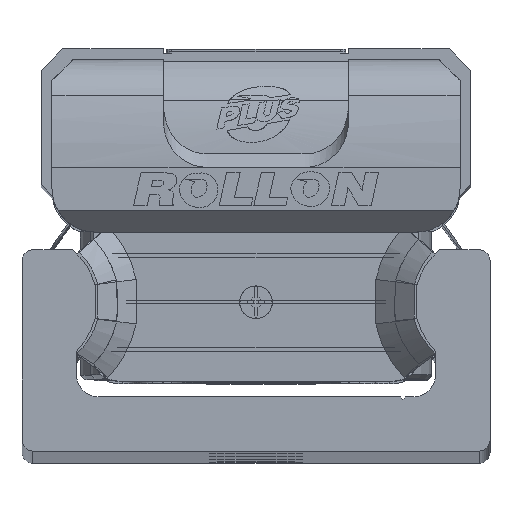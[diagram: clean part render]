
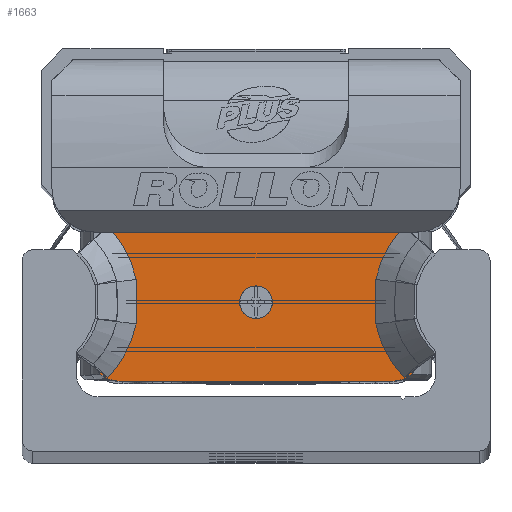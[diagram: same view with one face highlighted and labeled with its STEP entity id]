
A CAD part, top view. The second image highlights one B-rep face of the part: STEP entity #1663.
In plain terms, the highlighted planar face has unit normal (0, 0, 1) as drawn and (0, 0, -1) by its records, which use the part's own axes.
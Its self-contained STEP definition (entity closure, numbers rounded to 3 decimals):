
#1663 = ADVANCED_FACE( '', ( #3597, #3598 ), #3599, .F. );
#3597 = FACE_BOUND( '', #5858, .T. );
#3598 = FACE_OUTER_BOUND( '', #5859, .T. );
#3599 = PLANE( '', #5860 );
#5858 = EDGE_LOOP( '', ( #10530 ) );
#5859 = EDGE_LOOP( '', ( #10531, #10532, #10533, #10534, #10535, #10536, #10537, #10538, #10539, #10540, #10541, #10542 ) );
#5860 = AXIS2_PLACEMENT_3D( '', #10543, #10544, #10545 );
#10530 = ORIENTED_EDGE( '', *, *, #14012, .T. );
#10531 = ORIENTED_EDGE( '', *, *, #12516, .T. );
#10532 = ORIENTED_EDGE( '', *, *, #13554, .F. );
#10533 = ORIENTED_EDGE( '', *, *, #13612, .T. );
#10534 = ORIENTED_EDGE( '', *, *, #14181, .F. );
#10535 = ORIENTED_EDGE( '', *, *, #14182, .T. );
#10536 = ORIENTED_EDGE( '', *, *, #12733, .T. );
#10537 = ORIENTED_EDGE( '', *, *, #13959, .T. );
#10538 = ORIENTED_EDGE( '', *, *, #13859, .T. );
#10539 = ORIENTED_EDGE( '', *, *, #13217, .T. );
#10540 = ORIENTED_EDGE( '', *, *, #13971, .T. );
#10541 = ORIENTED_EDGE( '', *, *, #13758, .T. );
#10542 = ORIENTED_EDGE( '', *, *, #14183, .T. );
#10543 = CARTESIAN_POINT( '', ( 14.9, 7.35, -13.25 ) );
#10544 = DIRECTION( '', ( 0., 0., 1. ) );
#10545 = DIRECTION( '', ( 1., 0., 0. ) );
#12516 = EDGE_CURVE( '', #14893, #14891, #14894, .T. );
#12733 = EDGE_CURVE( '', #15281, #15279, #15282, .T. );
#13217 = EDGE_CURVE( '', #16079, #16077, #16080, .T. );
#13554 = EDGE_CURVE( '', #16596, #14891, #16598, .T. );
#13612 = EDGE_CURVE( '', #16596, #16688, #16690, .T. );
#13758 = EDGE_CURVE( '', #16891, #16889, #16892, .T. );
#13859 = EDGE_CURVE( '', #17035, #16079, #17036, .T. );
#13959 = EDGE_CURVE( '', #15279, #17035, #17168, .T. );
#13971 = EDGE_CURVE( '', #16077, #16891, #17183, .T. );
#14012 = EDGE_CURVE( '', #17233, #17233, #17234, .T. );
#14181 = EDGE_CURVE( '', #16324, #16688, #17435, .T. );
#14182 = EDGE_CURVE( '', #16324, #15281, #17436, .T. );
#14183 = EDGE_CURVE( '', #16889, #14893, #17437, .T. );
#14891 = VERTEX_POINT( '', #18394 );
#14893 = VERTEX_POINT( '', #18397 );
#14894 = B_SPLINE_CURVE_WITH_KNOTS( '', 1, ( #18398, #18399 ), .UNSPECIFIED., .F., .F., ( 2, 2 ), ( 0., 1. ), .UNSPECIFIED. );
#15279 = VERTEX_POINT( '', #18974 );
#15281 = VERTEX_POINT( '', #18977 );
#15282 = B_SPLINE_CURVE_WITH_KNOTS( '', 2, ( #18978, #18979, #18980, #18981, #18982 ), .UNSPECIFIED., .F., .F., ( 3, 2, 3 ), ( 0., 0.5, 1. ), .UNSPECIFIED. );
#16077 = VERTEX_POINT( '', #20152 );
#16079 = VERTEX_POINT( '', #20157 );
#16080 = LINE( '', #20158, #20159 );
#16324 = VERTEX_POINT( '', #20471 );
#16596 = VERTEX_POINT( '', #20844 );
#16598 = CIRCLE( '', #20847, 2.5 );
#16688 = VERTEX_POINT( '', #20965 );
#16690 = LINE( '', #20968, #20969 );
#16889 = VERTEX_POINT( '', #21234 );
#16891 = VERTEX_POINT( '', #21237 );
#16892 = B_SPLINE_CURVE_WITH_KNOTS( '', 2, ( #21238, #21239, #21240 ), .UNSPECIFIED., .F., .F., ( 3, 3 ), ( 0., 1. ), .UNSPECIFIED. );
#17035 = VERTEX_POINT( '', #21447 );
#17036 = B_SPLINE_CURVE_WITH_KNOTS( '', 2, ( #21448, #21449, #21450, #21451, #21452 ), .UNSPECIFIED., .F., .F., ( 3, 2, 3 ), ( 0., 0.5, 0.868 ), .UNSPECIFIED. );
#17168 = B_SPLINE_CURVE_WITH_KNOTS( '', 2, ( #21625, #21626, #21627 ), .UNSPECIFIED., .F., .F., ( 3, 3 ), ( 0., 1. ), .UNSPECIFIED. );
#17183 = B_SPLINE_CURVE_WITH_KNOTS( '', 2, ( #21647, #21648, #21649, #21650, #21651 ), .UNSPECIFIED., .F., .F., ( 3, 2, 3 ), ( 0.133, 0.5, 1. ), .UNSPECIFIED. );
#17233 = VERTEX_POINT( '', #21721 );
#17234 = CIRCLE( '', #21722, 1.5 );
#17435 = CIRCLE( '', #21988, 2.5 );
#17436 = B_SPLINE_CURVE_WITH_KNOTS( '', 1, ( #21989, #21990 ), .UNSPECIFIED., .F., .F., ( 2, 2 ), ( 0., 1. ), .UNSPECIFIED. );
#17437 = B_SPLINE_CURVE_WITH_KNOTS( '', 2, ( #21991, #21992, #21993, #21994, #21995 ), .UNSPECIFIED., .F., .F., ( 3, 2, 3 ), ( 0., 0.5, 1. ), .UNSPECIFIED. );
#18394 = CARTESIAN_POINT( '', ( 14.906, -5.717, -13.25 ) );
#18397 = CARTESIAN_POINT( '', ( 13.628, -6.965, -13.25 ) );
#18398 = CARTESIAN_POINT( '', ( 13.628, -6.965, -13.25 ) );
#18399 = CARTESIAN_POINT( '', ( 14.9, -5.728, -13.25 ) );
#18974 = CARTESIAN_POINT( '', ( -11.012, -2.045, -13.25 ) );
#18977 = CARTESIAN_POINT( '', ( -13.628, -6.965, -13.25 ) );
#18978 = CARTESIAN_POINT( '', ( -13.628, -6.965, -13.25 ) );
#18979 = CARTESIAN_POINT( '', ( -12.638, -5.946, -13.25 ) );
#18980 = CARTESIAN_POINT( '', ( -11.97, -4.691, -13.25 ) );
#18981 = CARTESIAN_POINT( '', ( -11.303, -3.437, -13.25 ) );
#18982 = CARTESIAN_POINT( '', ( -11.012, -2.045, -13.25 ) );
#20152 = CARTESIAN_POINT( '', ( 13.12, 6.4, -13.25 ) );
#20157 = CARTESIAN_POINT( '', ( -13.119, 6.4, -13.25 ) );
#20158 = CARTESIAN_POINT( '', ( 14.9, 6.4, -13.25 ) );
#20159 = VECTOR( '', #23732, 1000. );
#20471 = CARTESIAN_POINT( '', ( -14.904, -5.718, -13.25 ) );
#20844 = CARTESIAN_POINT( '', ( 12.58, -7.3, -13.25 ) );
#20847 = AXIS2_PLACEMENT_3D( '', #24181, #24182, #24183 );
#20965 = CARTESIAN_POINT( '', ( -12.58, -7.3, -13.25 ) );
#20968 = CARTESIAN_POINT( '', ( 12.58, -7.3, -13.25 ) );
#20969 = VECTOR( '', #24270, 1000. );
#21234 = CARTESIAN_POINT( '', ( 11.012, -2.045, -13.25 ) );
#21237 = CARTESIAN_POINT( '', ( 11.012, 2.045, -13.25 ) );
#21238 = CARTESIAN_POINT( '', ( 11.012, 2.045, -13.25 ) );
#21239 = CARTESIAN_POINT( '', ( 10.888, 0., -13.25 ) );
#21240 = CARTESIAN_POINT( '', ( 11.012, -2.045, -13.25 ) );
#21447 = CARTESIAN_POINT( '', ( -11.012, 2.045, -13.25 ) );
#21448 = CARTESIAN_POINT( '', ( -11.012, 2.045, -13.25 ) );
#21449 = CARTESIAN_POINT( '', ( -11.302, 3.432, -13.25 ) );
#21450 = CARTESIAN_POINT( '', ( -11.967, 4.685, -13.25 ) );
#21451 = CARTESIAN_POINT( '', ( -12.456, 5.606, -13.25 ) );
#21452 = CARTESIAN_POINT( '', ( -13.119, 6.4, -13.25 ) );
#21625 = CARTESIAN_POINT( '', ( -11.012, -2.045, -13.25 ) );
#21626 = CARTESIAN_POINT( '', ( -10.888, 0., -13.25 ) );
#21627 = CARTESIAN_POINT( '', ( -11.012, 2.045, -13.25 ) );
#21647 = CARTESIAN_POINT( '', ( 13.119, 6.4, -13.25 ) );
#21648 = CARTESIAN_POINT( '', ( 12.459, 5.608, -13.25 ) );
#21649 = CARTESIAN_POINT( '', ( 11.968, 4.684, -13.25 ) );
#21650 = CARTESIAN_POINT( '', ( 11.301, 3.427, -13.25 ) );
#21651 = CARTESIAN_POINT( '', ( 11.012, 2.045, -13.25 ) );
#21721 = CARTESIAN_POINT( '', ( 1.5, -0.05, -13.25 ) );
#21722 = AXIS2_PLACEMENT_3D( '', #24792, #24793, #24794 );
#21988 = AXIS2_PLACEMENT_3D( '', #24963, #24964, #24965 );
#21989 = CARTESIAN_POINT( '', ( -14.915, -5.713, -13.25 ) );
#21990 = CARTESIAN_POINT( '', ( -13.628, -6.965, -13.25 ) );
#21991 = CARTESIAN_POINT( '', ( 11.012, -2.045, -13.25 ) );
#21992 = CARTESIAN_POINT( '', ( 11.301, -3.43, -13.25 ) );
#21993 = CARTESIAN_POINT( '', ( 11.972, -4.69, -13.25 ) );
#21994 = CARTESIAN_POINT( '', ( 12.642, -5.95, -13.25 ) );
#21995 = CARTESIAN_POINT( '', ( 13.628, -6.965, -13.25 ) );
#23732 = DIRECTION( '', ( 1., 0., 0. ) );
#24181 = CARTESIAN_POINT( '', ( 12.58, -4.8, -13.25 ) );
#24182 = DIRECTION( '', ( 0., 0., 1. ) );
#24183 = DIRECTION( '', ( 1., 0., 0. ) );
#24270 = DIRECTION( '', ( -1., 0., 0. ) );
#24792 = CARTESIAN_POINT( '', ( 0., -0.05, -13.25 ) );
#24793 = DIRECTION( '', ( 0., 0., 1. ) );
#24794 = DIRECTION( '', ( 1., 0., 0. ) );
#24963 = CARTESIAN_POINT( '', ( -12.58, -4.8, -13.25 ) );
#24964 = DIRECTION( '', ( 0., 0., 1. ) );
#24965 = DIRECTION( '', ( 1., 0., 0. ) );
